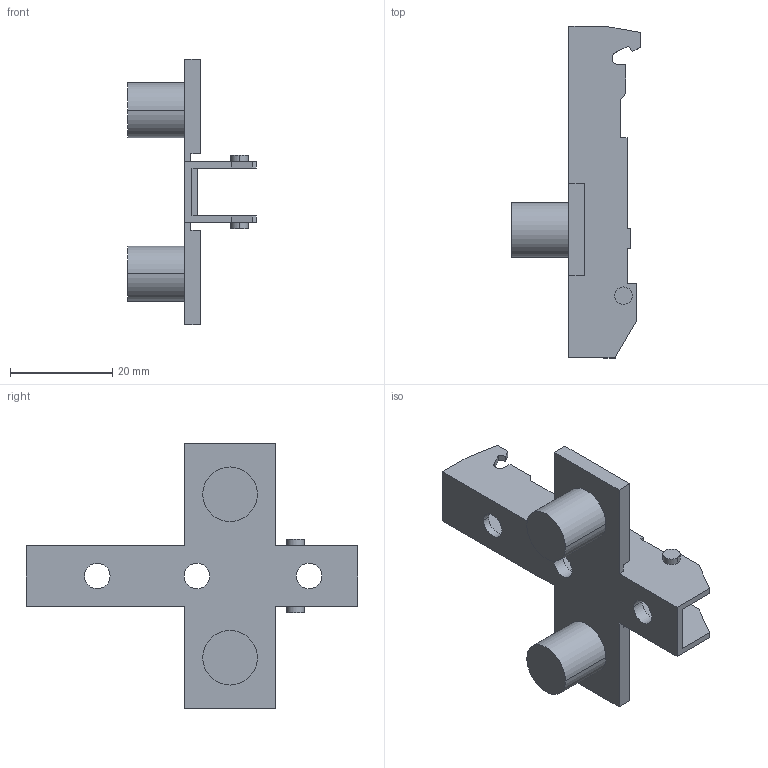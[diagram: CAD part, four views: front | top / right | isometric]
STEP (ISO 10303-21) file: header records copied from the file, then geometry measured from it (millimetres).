
FILE_DESCRIPTION (( 'STEP AP214' ), '1' );
FILE_NAME ('Eco Kreuzmontageplatte LR37_32_Dübel 10mm_H3,5.step', '2010-11-18T10:06:58', ( 'grass' ), ( '' ), 'SwSTEP 2.0', 'SolidWorks 2010', '' );
FILE_SCHEMA (( 'AUTOMOTIVE_DESIGN' ));
Length unit declared in the file: millimetre
Products named in the file (1): Eco Kreuzmontageplatte LR37_32_Dübel 10mm_H3,5
Bounding box: 25.2 x 65 x 52 mm (x, y, z)
Volume: 6665.3 mm3; surface area: 7048.4 mm2
Topology: 1 solids, 1 shells, 102 faces, 272 edges, 178 vertices
Faces by surface type: plane 74, cylinder 22, cone 6
Entity records: 3192 total; most frequent: CARTESIAN_POINT 553, ORIENTED_EDGE 544, DIRECTION 528, EDGE_CURVE 272, VECTOR 222, LINE 222, VERTEX_POINT 178, AXIS2_PLACEMENT_3D 153
